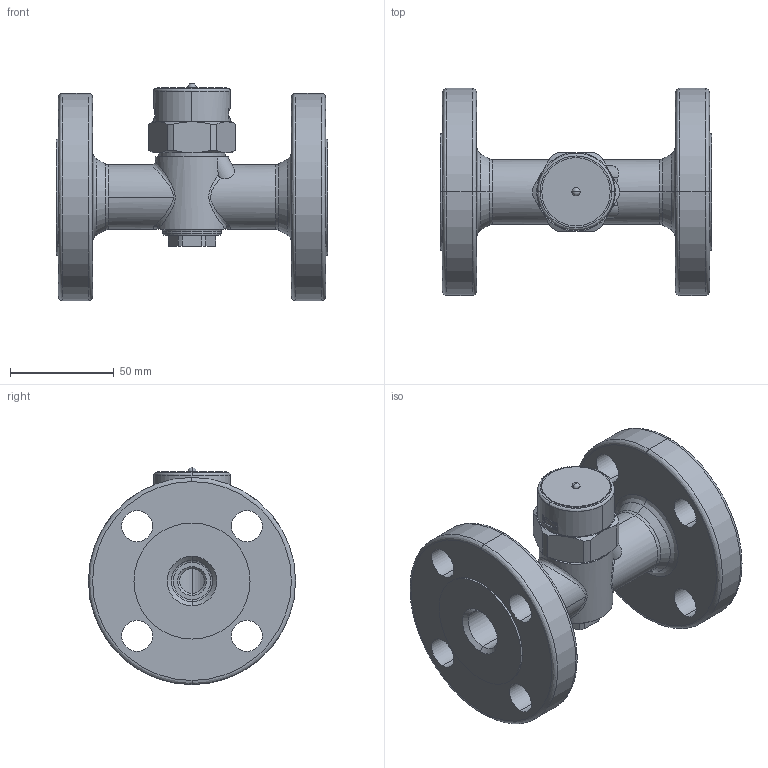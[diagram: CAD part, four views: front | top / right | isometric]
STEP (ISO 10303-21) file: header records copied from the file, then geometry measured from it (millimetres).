
FILE_DESCRIPTION( (''), '2;1');
FILE_NAME ('PC1276.13744.TSD-42F 20A JIS20K_28507.stp','2023-07-25T09:57:01',(''),(''),'spGate 19.8.4 (****-****-****-****)','','');
FILE_SCHEMA (('AUTOMOTIVE_DESIGN'));
Length unit declared in the file: millimetre
Products named in the file (8): Assembly; TSD-42F strainer cap; TSD-42F 銘板鋲; TSD-42F 20A 20K 本体 3D; TSD-42F gasket; TSD-42F 銘板　3D; TSD-42F キャップA 3D; TSD-42F 保温カバー　3D
Assembly tree (7 placements, depth 2):
  Assembly
    TSD-42F strainer cap
    TSD-42F 銘板鋲
    TSD-42F 20A 20K 本体 3D
    TSD-42F gasket
    TSD-42F 銘板　3D
    TSD-42F キャップA 3D
    TSD-42F 保温カバー　3D
Bounding box: 131 x 100 x 104.86 mm (x, y, z)
Volume: 319163.1 mm3; surface area: 81561.2 mm2
Topology: 7 solids, 7 shells, 327 faces, 762 edges, 453 vertices
Faces by surface type: cylinder 140, bspline 129, plane 56, sphere 2
Entity records: 18517 total; most frequent: CARTESIAN_POINT 5767, ORIENTED_EDGE 1480, DIRECTION 1212, COLOUR_RGB 1074, PRESENTATION_STYLE_ASSIGNMENT 1074, STYLED_ITEM 1074, EDGE_CURVE 740, DRAUGHTING_PRE_DEFINED_CURVE_FONT 740
